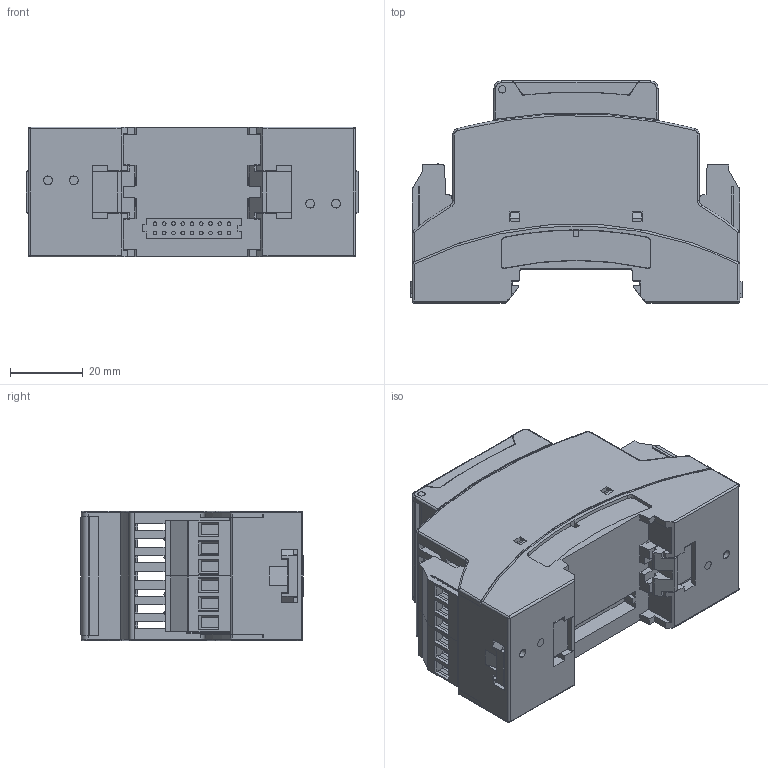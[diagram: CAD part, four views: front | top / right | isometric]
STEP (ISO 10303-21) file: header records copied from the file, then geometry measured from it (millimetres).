
FILE_DESCRIPTION (( 'STEP AP214' ), '1' );
FILE_NAME ('D-UW2-HS.STEP', '2015-08-21T09:16:54', ( '' ), ( '' ), 'SwSTEP 2.0', 'SolidWorks 2015', '' );
FILE_SCHEMA (( 'AUTOMOTIVE_DESIGN' ));
Length unit declared in the file: millimetre
Products named in the file (8): D-UW2-HS; Deckel_35.6-UW2-HS; Aufkleber-32x41-UW2-HS; BC_35.6_DKL_R_H.Select; BC_35.6_GEH-OT_U11_H.Select; Dummy-UW2-HS; BC_35.6_GEH-UT_HBUS_H.Select; Fussriegel_14.4_L30_Sperr_H.Select__00370451_Nr2
Assembly tree (8 placements, depth 3):
  D-UW2-HS
    Fussriegel_14.4_L30_Sperr_H.Select__00370451_Nr2  x2
    BC_35.6_GEH-UT_HBUS_H.Select
    Dummy-UW2-HS
    BC_35.6_GEH-OT_U11_H.Select
    Deckel_35.6-UW2-HS
      BC_35.6_DKL_R_H.Select
      Aufkleber-32x41-UW2-HS
Bounding box: 91 x 61 x 35.6 mm (x, y, z)
Volume: 46025.3 mm3; surface area: 61760.2 mm2
Topology: 28 solids, 28 shells, 1648 faces, 4600 edges, 3031 vertices
Faces by surface type: plane 1296, cylinder 302, bspline 28, cone 14, sphere 8
Entity records: 70110 total; most frequent: CARTESIAN_POINT 9827, ORIENTED_EDGE 8968, DIRECTION 8263, EDGE_CURVE 4484, VECTOR 3745, LINE 3745, VERTEX_POINT 2959, AXIS2_PLACEMENT_3D 2259
